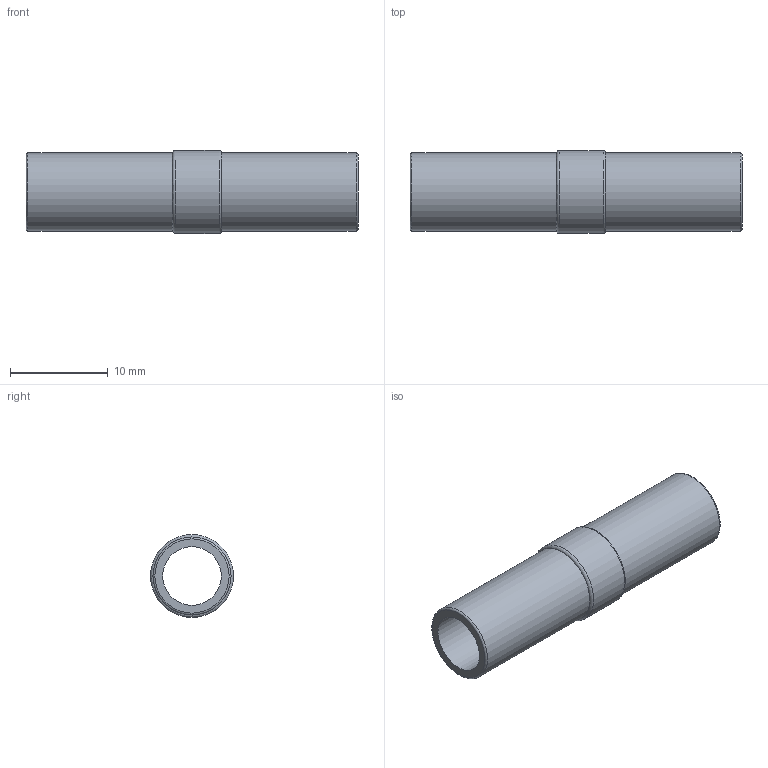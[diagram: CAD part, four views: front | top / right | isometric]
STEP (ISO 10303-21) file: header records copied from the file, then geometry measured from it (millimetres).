
FILE_DESCRIPTION((''),'2;1');
FILE_NAME('E:\2012年度板ﾃﾞｰﾀ\CHIYODA 3D-CAD DATA (Inventor 11)\TOUCH CONNECTOR FIVE (Inventor 11)\[23] JOINT\[03] FR8-8J FR8-8JW.stp','2012-03-21T16:36:14',('kazuhiro.t'),(''),'Autodesk Inventor 11','Autodesk Inventor 11','');
FILE_SCHEMA(('AUTOMOTIVE_DESIGN { 1 0 10303 214 1 1 1 1 }'));
Length unit declared in the file: millimetre
Products named in the file (1): [03] FR8-8J FR8-8JW
Bounding box: 34 x 8.5 x 8.5 mm (x, y, z)
Volume: 779 mm3; surface area: 1550.2 mm2
Topology: 1 solids, 1 shells, 11 faces, 22 edges, 14 vertices
Faces by surface type: cylinder 4, torus 3, plane 3, bspline 1
Full cylindrical faces by diameter (mm): 6 x1, 8 x2, 8.5 x1
Entity records: 273 total; most frequent: CARTESIAN_POINT 60, DIRECTION 44, AXIS2_PLACEMENT_3D 22, ORIENTED_EDGE 22, EDGE_LOOP 22, VERTEX_POINT 11, CIRCLE 11, EDGE_CURVE 11
